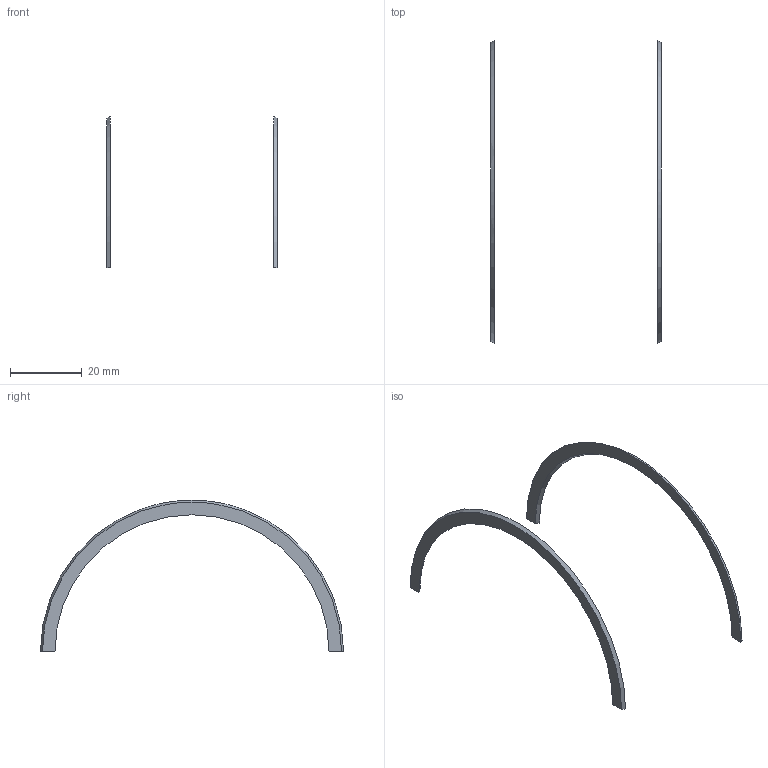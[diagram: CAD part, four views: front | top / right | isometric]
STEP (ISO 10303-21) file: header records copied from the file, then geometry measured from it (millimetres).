
FILE_DESCRIPTION(('Open CASCADE Model'),'2;1');
FILE_NAME('Open CASCADE Shape Model','2026-11-20T06:36:55',('Author'),( 'Open CASCADE'),'Open CASCADE STEP processor 7.8','Open CASCADE 7.8' ,'Unknown');
FILE_SCHEMA(('AUTOMOTIVE_DESIGN { 1 0 10303 214 1 1 1 1 }'));
Length unit declared in the file: millimetre
Products named in the file (3): B00_baseline_partition_reference; Partition_Xminus; Partition_Xplus
Assembly tree (2 placements, depth 2):
  B00_baseline_partition_reference
    Partition_Xminus
    Partition_Xplus
Bounding box: 47.4 x 84.36 x 42.18 mm (x, y, z)
Volume: 874.6 mm3; surface area: 2346.2 mm2
Topology: 2 solids, 2 shells, 12 faces, 24 edges, 16 vertices
Faces by surface type: plane 8, sphere 4
Entity records: 1239 total; most frequent: CARTESIAN_POINT 725, DIRECTION 93, ORIENTED_EDGE 48, PCURVE 48, DEFINITIONAL_REPRESENTATION 48, AXIS2_PLACEMENT_3D 31, LINE 28, VECTOR 28
